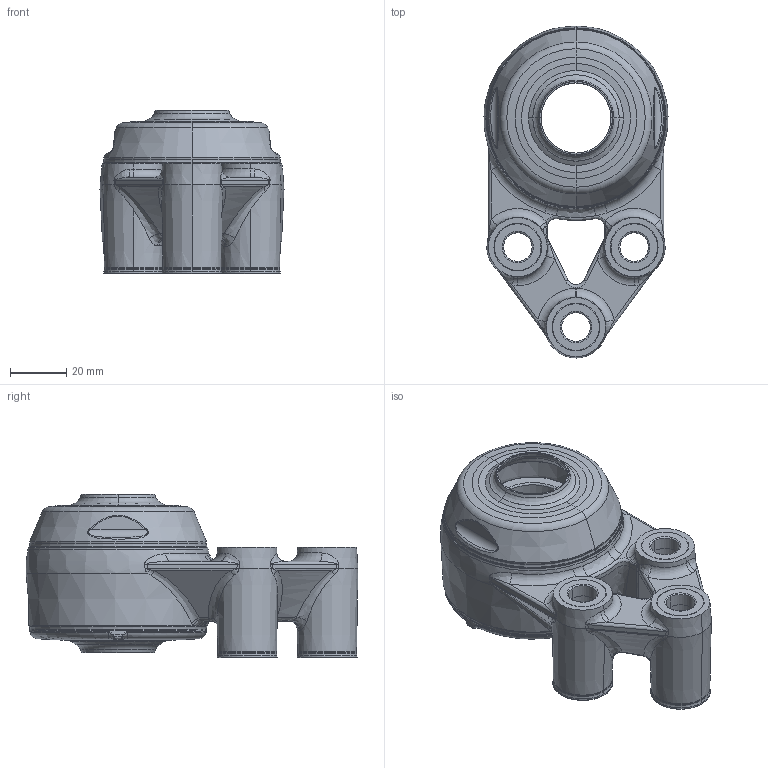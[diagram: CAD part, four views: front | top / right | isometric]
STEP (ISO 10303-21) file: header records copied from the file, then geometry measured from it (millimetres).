
FILE_DESCRIPTION (( 'STEP AP203' ), '1' );
FILE_NAME ('XB3FC52(Blue)-CSB2540(Front)-OM(Blue)-OS(Blue)_Shell.step', '2020-09-22T14:18:56', ( '' ), ( '' ), 'SwSTEP 2.0', 'SolidWorks 2019', '' );
FILE_SCHEMA (( 'CONFIG_CONTROL_DESIGN' ));
Length unit declared in the file: millimetre
Products named in the file (1): XB3FC52(Blue)-CSB2540(Front)-OM(Blue)-OS(Blue)_Shell
Bounding box: 65.6 x 118.34 x 58.14 mm (x, y, z)
Surface area: 42950.8 mm2 (no closed solid volume)
Topology: 0 solids, 40 shells, 513 faces, 1917 edges, 1408 vertices
Faces by surface type: bspline 178, cone 102, torus 89, cylinder 67, plane 45, sphere 32
Entity records: 34995 total; most frequent: CARTESIAN_POINT 21217, ORIENTED_EDGE 2937, DIRECTION 2248, EDGE_CURVE 1915, VERTEX_POINT 1408, AXIS2_PLACEMENT_3D 1016, B_SPLINE_CURVE_WITH_KNOTS 997, CIRCLE 680
